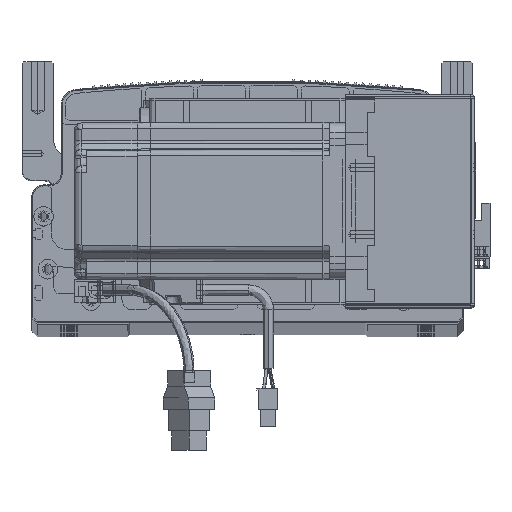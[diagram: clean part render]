
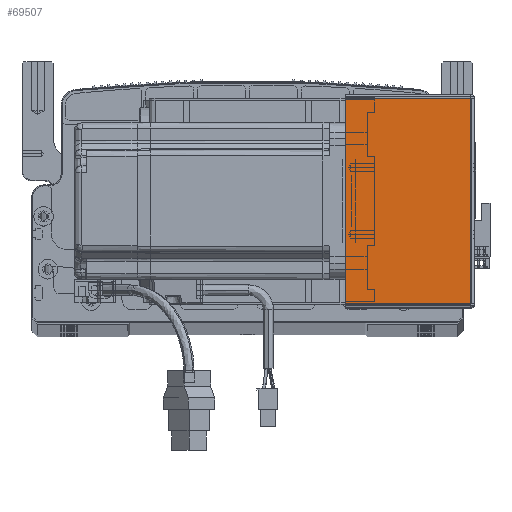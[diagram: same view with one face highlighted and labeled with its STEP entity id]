
A CAD part, top view. The second image highlights one B-rep face of the part: STEP entity #69507.
In plain terms, the highlighted planar face has unit normal (0, 0, 1) as drawn and (0, 0, -1) by its records, which use the part's own axes.
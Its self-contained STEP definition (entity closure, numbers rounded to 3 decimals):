
#405 = EDGE_CURVE ( 'NONE', #25199, #86315, #7551, .T. ) ;
#3852 = VECTOR ( 'NONE', #41727, 1000. ) ;
#4552 = VECTOR ( 'NONE', #39479, 1000. ) ;
#7551 = LINE ( 'NONE', #57012, #26322 ) ;
#8197 = VECTOR ( 'NONE', #72656, 1000. ) ;
#9859 = CARTESIAN_POINT ( 'NONE',  ( 0., 0., -205.5 ) ) ;
#13857 = LINE ( 'NONE', #81508, #3852 ) ;
#15454 = EDGE_CURVE ( 'NONE', #27590, #86315, #82030, .T. ) ;
#15664 = CARTESIAN_POINT ( 'NONE',  ( 0.737, 0., -205.5 ) ) ;
#21837 = ORIENTED_EDGE ( 'NONE', *, *, #76342, .T. ) ;
#23945 = EDGE_LOOP ( 'NONE', ( #25626, #21837, #89564, #62795 ) ) ;
#25199 = VERTEX_POINT ( 'NONE', #77491 ) ;
#25374 = AXIS2_PLACEMENT_3D ( 'NONE', #9859, #90618, #65830 ) ;
#25626 = ORIENTED_EDGE ( 'NONE', *, *, #78522, .F. ) ;
#26322 = VECTOR ( 'NONE', #88802, 1000. ) ;
#27590 = VERTEX_POINT ( 'NONE', #69852 ) ;
#39479 = DIRECTION ( 'NONE',  ( 0., -1., 0. ) ) ;
#41727 = DIRECTION ( 'NONE',  ( 1., 0., 0. ) ) ;
#55916 = CARTESIAN_POINT ( 'NONE',  ( 64.5, 0.707, -205.5 ) ) ;
#57012 = CARTESIAN_POINT ( 'NONE',  ( 64.5, 0., -205.5 ) ) ;
#62795 = ORIENTED_EDGE ( 'NONE', *, *, #15454, .F. ) ;
#64324 = CARTESIAN_POINT ( 'NONE',  ( 0., 0.707, -205.5 ) ) ;
#64599 = LINE ( 'NONE', #15664, #4552 ) ;
#65830 = DIRECTION ( 'NONE',  ( 1., 0., 0. ) ) ;
#69507 = ADVANCED_FACE ( 'NONE', ( #101425 ), #97969, .F. ) ;
#69852 = CARTESIAN_POINT ( 'NONE',  ( 0.737, 0.707, -205.5 ) ) ;
#72656 = DIRECTION ( 'NONE',  ( 1., 0., 0. ) ) ;
#76342 = EDGE_CURVE ( 'NONE', #91184, #25199, #13857, .T. ) ;
#77491 = CARTESIAN_POINT ( 'NONE',  ( 64.5, 105.293, -205.5 ) ) ;
#78522 = EDGE_CURVE ( 'NONE', #91184, #27590, #64599, .T. ) ;
#81508 = CARTESIAN_POINT ( 'NONE',  ( 0., 105.293, -205.5 ) ) ;
#82030 = LINE ( 'NONE', #64324, #8197 ) ;
#86315 = VERTEX_POINT ( 'NONE', #55916 ) ;
#88802 = DIRECTION ( 'NONE',  ( 0., -1., 0. ) ) ;
#89564 = ORIENTED_EDGE ( 'NONE', *, *, #405, .T. ) ;
#90618 = DIRECTION ( 'NONE',  ( 0., 0., 1. ) ) ;
#91184 = VERTEX_POINT ( 'NONE', #92743 ) ;
#92743 = CARTESIAN_POINT ( 'NONE',  ( 0.737, 105.293, -205.5 ) ) ;
#97969 = PLANE ( 'NONE',  #25374 ) ;
#101425 = FACE_OUTER_BOUND ( 'NONE', #23945, .T. ) ;
